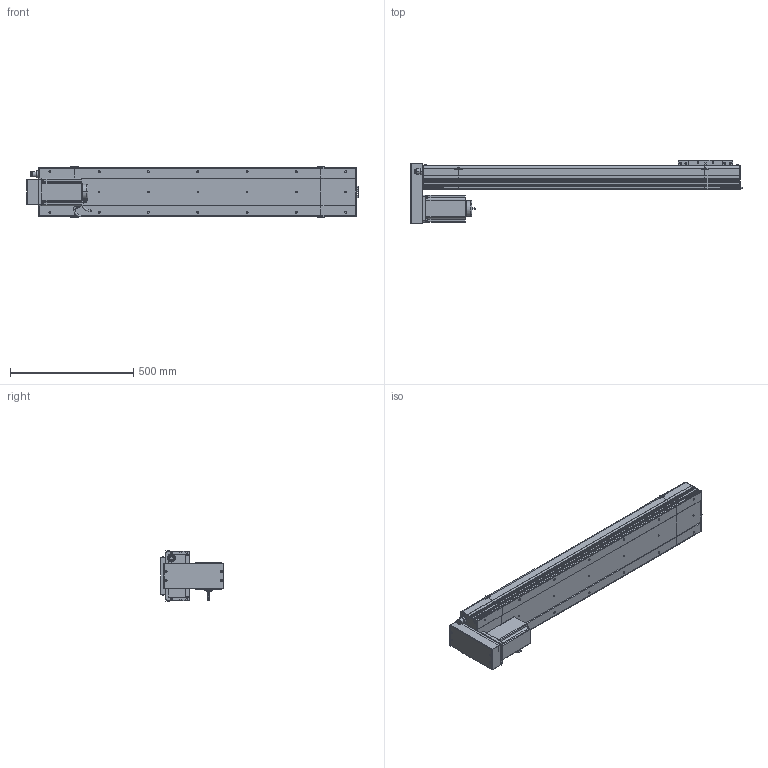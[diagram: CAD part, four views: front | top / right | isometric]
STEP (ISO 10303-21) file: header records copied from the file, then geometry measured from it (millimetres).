
FILE_DESCRIPTION (( 'STEP AP214' ), '1' );
FILE_NAME ('D20 CSH BM S1000.STEP', '2010-06-30T08:15:45', ( 'Conseil Régional Haute-Normandie' ), ( 'Conseil Régional Haute-Normandie' ), 'SwSTEP 2.0', 'SolidWorks 2010', '' );
FILE_SCHEMA (( 'AUTOMOTIVE_DESIGN' ));
Length unit declared in the file: millimetre
Products named in the file (31): Plaque De Serrage Head BM D20_Default; vis M5 L15_Default; Couvercle Head BM_Default; Corp Head BM D20_Default; vis M5 L47_Default; Cache Moteur BM D20_Default; vis M5 L30_Default; ecrou_Default; clavette; Conecteur_Default; Corp Tail D20_Default; Tail D20_Default; D20 CSH BM S1000; Plaque De Serrage D20_Default; Plaque de Bout Tail D20_Default; Couvercle_Default; Couvercle S1000_Default; Corp S1000_Default; Corp D20 S1000_Default; Chariot D20_Default; Support Chariot D20_Default; Plaque de Bout Head BM D20_Default; Head BM D20_Default; Glissiere_Default; avant 110BLDC170A-630x; Moteur motionking 110BLDC170A-640x; Support moteur BM D20_Default; Conecteur2_Default; codeur 110BLDC170A-630x; corps 110BLDC170A-630x
Assembly tree (58 placements, depth 4):
  D20 CSH BM S1000
    Corp D20 S1000_Default
      Corp S1000_Default
      Couvercle S1000_Default
    Head BM D20_Default
      ecrou_Default  x4
      vis M5 L15_Default  x6
      vis M5 L47_Default  x4
      Couvercle Head BM_Default
      Plaque de Bout Head BM D20_Default
      Cache Moteur BM D20_Default
      Corp Head BM D20_Default
      Moteur motionking 110BLDC170A-640x
        Conecteur2_Default
        clavette
        avant 110BLDC170A-630x
        Conecteur_Default
        corps 110BLDC170A-630x
        codeur 110BLDC170A-630x
      Support moteur BM D20_Default
      vis M5 L30_Default  x4
      Plaque De Serrage Head BM D20_Default
    Chariot D20_Default
      Support Chariot D20_Default
      vis M5 L15_Default  x8
      Glissiere_Default
      Chariot D20_Default
    Tail D20_Default
      vis M5 L15_Default  x6
      Plaque De Serrage D20_Default
      Corp Tail D20_Default
      Couvercle_Default
      Plaque de Bout Tail D20_Default
Bounding box: 1347.7 x 257.5 x 206 mm (x, y, z)
Volume: 11140269.6 mm3; surface area: 2103961.4 mm2
Topology: 95 solids, 95 shells, 3517 faces, 8851 edges, 5769 vertices
Faces by surface type: plane 1974, bspline 806, cylinder 599, torus 79, cone 59
Entity records: 156745 total; most frequent: CARTESIAN_POINT 81847, ORIENTED_EDGE 14850, DIRECTION 11099, EDGE_CURVE 7425, VERTEX_POINT 4917, VECTOR 4865, LINE 4865, EDGE_LOOP 3168
